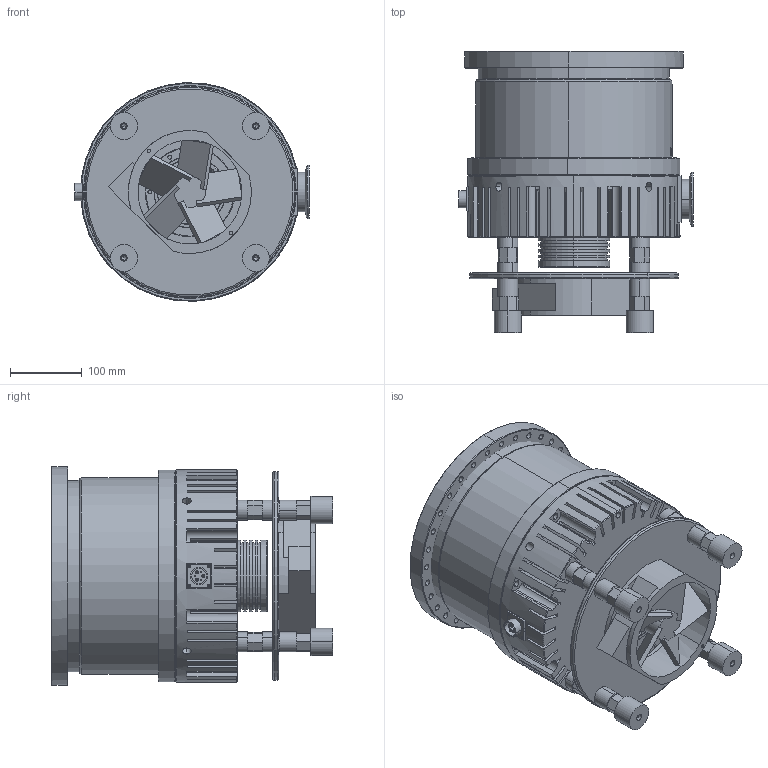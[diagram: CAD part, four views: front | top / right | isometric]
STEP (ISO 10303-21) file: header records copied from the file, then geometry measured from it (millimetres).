
FILE_DESCRIPTION (( 'STEP AP203' ), '1' );
FILE_NAME ('CF2000瑞濮絮諳.STEP', '2025-03-29T08:41:02', ( 'User' ), ( 'China' ), 'SwSTEP 2.0', 'SolidWorks 2016', '' );
FILE_SCHEMA (( 'CONFIG_CONTROL_DESIGN' ));
Length unit declared in the file: millimetre
Products named in the file (16): JTFB2000DZ-01-01-01A; JTFB1600D-18-01-01; JTFB2000DZ-01-01-00A; JTFB1600J-18-02; JTFB2000DZ-01-00A; 萇埭諉芛; JTFB-1600F-01; JTFB-1600F-02; 1600掙虯蝶杶; JTFB-2000F-02; 菁攫W; 2000掙极W; 瑞圮A; JTFB1300Z-04A; JTFB1600-03; CF2000瑞濮絮諳
Assembly tree (24 placements, depth 4):
  CF2000瑞濮絮諳
    JTFB2000DZ-01-00A
      JTFB2000DZ-01-01-00A
        JTFB2000DZ-01-01-01A
        JTFB1600D-18-01-01
      JTFB1600J-18-02
    萇埭諉芛
    JTFB-1600F-01
    JTFB-1600F-02  x4
    1600掙虯蝶杶  x4
    JTFB-2000F-02  x4
    菁攫W
    2000掙极W
    瑞圮A
    JTFB1300Z-04A
    JTFB1600-03
Bounding box: 326.88 x 391.75 x 304.69 mm (x, y, z)
Volume: 17553144.2 mm3; surface area: 1264827.3 mm2
Topology: 22 solids, 22 shells, 1290 faces, 3370 edges, 2157 vertices
Faces by surface type: cylinder 545, plane 378, cone 208, bspline 141, torus 18
Entity records: 60356 total; most frequent: CARTESIAN_POINT 31384, ORIENTED_EDGE 5784, DIRECTION 5377, EDGE_CURVE 2892, AXIS2_PLACEMENT_3D 2160, VERTEX_POINT 1905, EDGE_LOOP 1383, CIRCLE 1165
